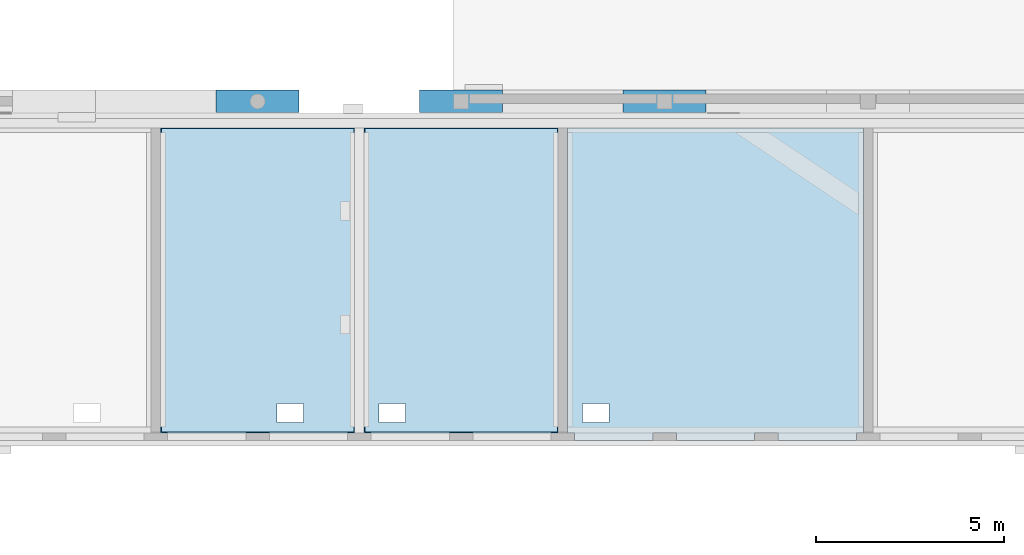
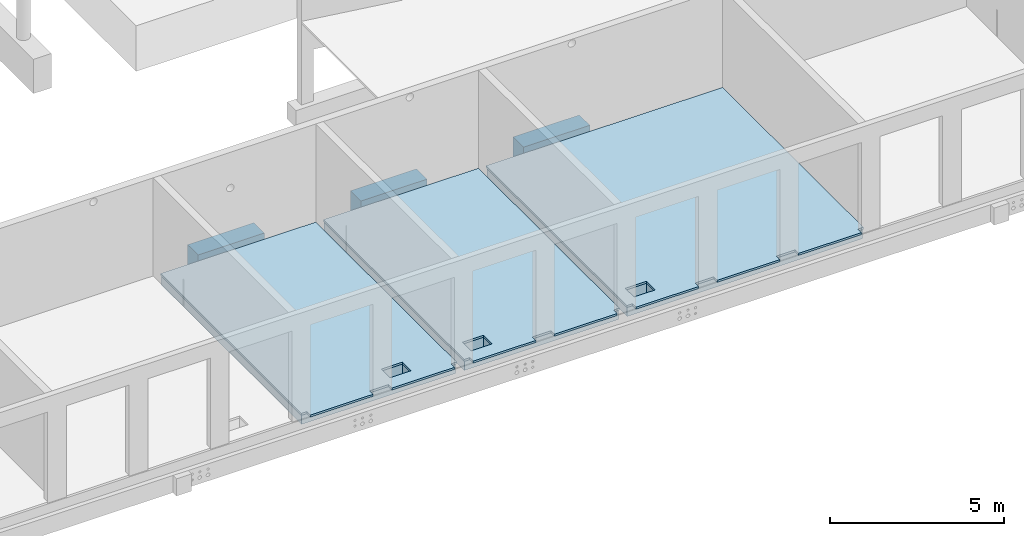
# One storey, part 27 of 60: 9 slabs, 51 openings.
"""IFC2X3 building model written with IfcOpenShell, lengths in millimetres."""

from ifc_helpers import new_model, entity, si_unit, converted_unit, derived_unit, direction, frame, frame_2d, origin, origin_2d_with_axis, place, context, subcontext, project, spatial, polyline, rectangle, outline, extrude, material, layer, layer_set, layer_usage, element, save


model = new_model("IFC2X3")

# Units and contexts
model_context = context("Model", 3, precision=0.01, world=origin(), true_north=direction((6.12303176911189e-17, 1.0)))
body_context = subcontext(model_context, "Body", "Model", "MODEL_VIEW")
ifc_project = project(units=[si_unit("LENGTHUNIT", "METRE", prefix="MILLI"), si_unit("AREAUNIT", "SQUARE_METRE"), si_unit("VOLUMEUNIT", "CUBIC_METRE"), converted_unit("PLANEANGLEUNIT", "DEGREE", entity("IfcRatioMeasure", 0.0174532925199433), si_unit("PLANEANGLEUNIT", "RADIAN"), dimensions=[0, 0, 0, 0, 0, 0, 0]), si_unit("MASSUNIT", "GRAM", prefix="KILO"), derived_unit("MASSDENSITYUNIT", [(si_unit("MASSUNIT", "GRAM", prefix="KILO"), 1), (si_unit("LENGTHUNIT", "METRE"), -3)]), si_unit("TIMEUNIT", "SECOND"), si_unit("FREQUENCYUNIT", "HERTZ"), si_unit("THERMODYNAMICTEMPERATUREUNIT", "DEGREE_CELSIUS"), derived_unit("THERMALTRANSMITTANCEUNIT", [(si_unit("MASSUNIT", "GRAM", prefix="KILO"), 1), (si_unit("THERMODYNAMICTEMPERATUREUNIT", "KELVIN"), -1), (si_unit("TIMEUNIT", "SECOND"), -3)]), derived_unit("VOLUMETRICFLOWRATEUNIT", [(si_unit("LENGTHUNIT", "METRE"), 3), (si_unit("TIMEUNIT", "SECOND"), -1)]), si_unit("ELECTRICCURRENTUNIT", "AMPERE"), si_unit("ELECTRICVOLTAGEUNIT", "VOLT"), si_unit("POWERUNIT", "WATT"), si_unit("FORCEUNIT", "NEWTON", prefix="KILO"), si_unit("ILLUMINANCEUNIT", "LUX"), si_unit("LUMINOUSFLUXUNIT", "LUMEN"), si_unit("LUMINOUSINTENSITYUNIT", "CANDELA"), derived_unit("USERDEFINED", [(si_unit("MASSUNIT", "GRAM", prefix="KILO"), -1), (si_unit("LENGTHUNIT", "METRE"), -2), (si_unit("TIMEUNIT", "SECOND"), 3), (si_unit("LUMINOUSFLUXUNIT", "LUMEN"), 1)]), derived_unit("LINEARVELOCITYUNIT", [(si_unit("LENGTHUNIT", "METRE"), 1), (si_unit("TIMEUNIT", "SECOND"), -1)]), si_unit("PRESSUREUNIT", "PASCAL"), derived_unit("USERDEFINED", [(si_unit("LENGTHUNIT", "METRE"), -2), (si_unit("MASSUNIT", "GRAM", prefix="KILO"), 1), (si_unit("TIMEUNIT", "SECOND"), -2)])], contexts=[model_context])

# Site, building, storey
site_placement = place(None, origin())
site = spatial("IfcSite", under=ifc_project, at=site_placement, Name="Default", CompositionType="ELEMENT")
building_placement = place(site_placement, origin())
building = spatial("IfcBuilding", under=site, at=building_placement, Name="niet gebruiken", CompositionType="ELEMENT")
storey_placement = place(building_placement, origin())
storey = spatial("IfcBuildingStorey", under=building, at=storey_placement, Name="00 begane grond", CompositionType="ELEMENT", Elevation=0.0)

# Slab, openings
ifc_material_1 = material(Name="NLRS_f2_beton ihwg")
ifc_layer_1 = layer(ifc_material_1, 70.0)
ifc_layer_set_1 = layer_set([ifc_layer_1], Name="Floor:NLRS_23.21_FL_druklaag d=70_gen")
ifc_layer_usage_1 = layer_usage(ifc_layer_set_1, "AXIS3", "POSITIVE", 0.0)
slab_1_placement = place(storey_placement, frame((2800.0, 200.0, -160.0)))
slab_1 = element("IfcSlab", 1, at=slab_1_placement, inside=storey, material=ifc_layer_usage_1, Name="Floor:NLRS_23.21_FL_druklaag d=70_gen:11", ObjectType="Floor:NLRS_23.21_FL_druklaag d=70_gen", PredefinedType="FLOOR", context=body_context, shape_type="SweptSolid", body=[
    extrude(outline(polyline([(-9672.49999999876, -3948.0), (-9487.49999999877, -3948.0), (-9487.49999999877, 4148.0), (-14637.4999999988, 4148.0), (-14637.4999999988, -3948.0), (-14452.4999999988, -3948.0), (-14452.4999999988, -4148.0), (-12372.4999999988, -4148.0), (-12372.4999999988, -3948.0), (-11752.4999999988, -3948.0), (-11752.4999999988, -4148.0), (-9672.49999999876, -4148.0), (-9672.49999999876, -3948.0)])), frame((49937.5, 4148.0, 70.0), z_axis=(0.0, 0.0, -1.0), x_axis=(-1.0, 0.0, 0.0)), (0.0, 0.0, 1.0), 70.0),
])
placement_1 = place(storey_placement, frame((2800.0, 200.0, -160.0)))
placement_2 = place(placement_1, origin())
element("IfcOpeningElement", 2, at=placement_2, cuts=slab_1, ObjectType="Opening", context=body_context, shape_type="SweptSolid", body=[
    extrude(rectangle(XDim=699.999999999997, YDim=500.000000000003, at=origin_2d_with_axis()), frame((89870.0, 725.0, -380.0), z_axis=(0.0, 0.0, 1.0), x_axis=(-1.0, 0.0, 0.0)), (0.0, 0.0, 1.0), 450.0),
])
placement_3 = place(placement_1, origin())
element("IfcOpeningElement", 3, at=placement_3, cuts=slab_1, ObjectType="Opening", context=body_context, shape_type="SweptSolid", body=[
    extrude(rectangle(XDim=699.999999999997, YDim=500.000000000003, at=origin_2d_with_axis()), frame((92570.0, 725.0, -380.0), z_axis=(0.0, 0.0, 1.0), x_axis=(-1.0, 0.0, 0.0)), (0.0, 0.0, 1.0), 450.0),
])
placement_4 = place(placement_1, origin())
element("IfcOpeningElement", 4, at=placement_4, cuts=slab_1, ObjectType="Opening", context=body_context, shape_type="SweptSolid", body=[
    extrude(rectangle(XDim=699.999999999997, YDim=500.000000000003, at=origin_2d_with_axis()), frame((84470.0, 725.0, -380.0), z_axis=(0.0, 0.0, 1.0), x_axis=(-1.0, 0.0, 0.0)), (0.0, 0.0, 1.0), 450.0),
])
placement_5 = place(placement_1, origin())
element("IfcOpeningElement", 5, at=placement_5, cuts=slab_1, ObjectType="Opening", context=body_context, shape_type="SweptSolid", body=[
    extrude(rectangle(XDim=700.000000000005, YDim=500.000000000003, at=origin_2d_with_axis()), frame((70970.0, 725.0, -380.0), z_axis=(0.0, 0.0, 1.0), x_axis=(-1.0, 0.0, 0.0)), (0.0, 0.0, 1.0), 450.0),
])
placement_6 = place(placement_1, origin())
element("IfcOpeningElement", 6, at=placement_6, cuts=slab_1, ObjectType="Opening", context=body_context, shape_type="SweptSolid", body=[
    extrude(rectangle(XDim=700.000000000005, YDim=500.000000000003, at=origin_2d_with_axis()), frame((65570.0, 725.0, -380.0), z_axis=(0.0, 0.0, 1.0), x_axis=(-1.0, 0.0, 0.0)), (0.0, 0.0, 1.0), 450.0),
])
placement_7 = place(placement_1, origin())
element("IfcOpeningElement", 7, at=placement_7, cuts=slab_1, ObjectType="Opening", context=body_context, shape_type="SweptSolid", body=[
    extrude(rectangle(XDim=700.000000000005, YDim=500.000000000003, at=origin_2d_with_axis()), frame((62870.0, 725.0, -380.0), z_axis=(0.0, 0.0, 1.0), x_axis=(-1.0, 0.0, 0.0)), (0.0, 0.0, 1.0), 450.0),
])
placement_8 = place(placement_1, origin())
element("IfcOpeningElement", 8, at=placement_8, cuts=slab_1, ObjectType="Opening", context=body_context, shape_type="SweptSolid", body=[
    extrude(rectangle(XDim=700.000000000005, YDim=500.000000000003, at=origin_2d_with_axis()), frame((57470.0, 725.0, -380.0), z_axis=(0.0, 0.0, 1.0), x_axis=(-1.0, 0.0, 0.0)), (0.0, 0.0, 1.0), 450.0),
])
placement_9 = place(placement_1, origin())
element("IfcOpeningElement", 9, at=placement_9, cuts=slab_1, ObjectType="Opening", context=body_context, shape_type="SweptSolid", body=[
    extrude(rectangle(XDim=700.000000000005, YDim=500.000000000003, at=origin_2d_with_axis()), frame((43970.0, 725.0, -380.0), z_axis=(0.0, 0.0, 1.0), x_axis=(-1.0, 0.0, 0.0)), (0.0, 0.0, 1.0), 450.0),
])
placement_10 = place(placement_1, origin())
element("IfcOpeningElement", 10, at=placement_10, cuts=slab_1, ObjectType="Opening", context=body_context, shape_type="SweptSolid", body=[
    extrude(rectangle(XDim=700.000000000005, YDim=500.000000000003, at=origin_2d_with_axis()), frame((38570.0, 725.0, -380.0), z_axis=(0.0, 0.0, 1.0), x_axis=(-1.0, 0.0, 0.0)), (0.0, 0.0, 1.0), 450.0),
])
placement_11 = place(placement_1, origin())
element("IfcOpeningElement", 11, at=placement_11, cuts=slab_1, ObjectType="Opening", context=body_context, shape_type="SweptSolid", body=[
    extrude(rectangle(XDim=700.000000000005, YDim=500.000000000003, at=origin_2d_with_axis()), frame((35870.0, 725.0, -380.0), z_axis=(0.0, 0.0, 1.0), x_axis=(-1.0, 0.0, 0.0)), (0.0, 0.0, 1.0), 450.0),
])
placement_12 = place(placement_1, origin())
element("IfcOpeningElement", 12, at=placement_12, cuts=slab_1, ObjectType="Opening", context=body_context, shape_type="SweptSolid", body=[
    extrude(rectangle(XDim=700.000000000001, YDim=500.000000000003, at=origin_2d_with_axis()), frame((30470.0, 725.0, -380.0), z_axis=(0.0, 0.0, 1.0), x_axis=(-1.0, 0.0, 0.0)), (0.0, 0.0, 1.0), 450.0),
])
placement_13 = place(placement_1, origin())
element("IfcOpeningElement", 13, at=placement_13, cuts=slab_1, ObjectType="Opening", context=body_context, shape_type="SweptSolid", body=[
    extrude(rectangle(XDim=700.000000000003, YDim=500.000000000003, at=origin_2d_with_axis()), frame((16970.0, 725.0, -380.0), z_axis=(0.0, 0.0, 1.0), x_axis=(-1.0, 0.0, 0.0)), (0.0, 0.0, 1.0), 450.0),
])
placement_14 = place(placement_1, origin())
element("IfcOpeningElement", 14, at=placement_14, cuts=slab_1, ObjectType="Opening", context=body_context, shape_type="SweptSolid", body=[
    extrude(rectangle(XDim=700.000000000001, YDim=500.000000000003, at=origin_2d_with_axis()), frame((11570.0, 725.0, -380.0), z_axis=(0.0, 0.0, 1.0), x_axis=(-1.0, 0.0, 0.0)), (0.0, 0.0, 1.0), 450.0),
])
placement_15 = place(placement_1, origin())
element("IfcOpeningElement", 15, at=placement_15, cuts=slab_1, ObjectType="Opening", context=body_context, shape_type="SweptSolid", body=[
    extrude(rectangle(XDim=700.000000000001, YDim=500.000000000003, at=origin_2d_with_axis()), frame((8870.0, 725.0, -380.0), z_axis=(0.0, 0.0, 1.0), x_axis=(-1.0, 0.0, 0.0)), (0.0, 0.0, 1.0), 450.0),
])
placement_16 = place(placement_1, origin())
element("IfcOpeningElement", 16, at=placement_16, cuts=slab_1, ObjectType="Opening", context=body_context, shape_type="SweptSolid", body=[
    extrude(rectangle(XDim=700.000000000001, YDim=500.000000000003, at=origin_2d_with_axis()), frame((3470.0, 725.0, -380.0), z_axis=(0.0, 0.0, 1.0), x_axis=(-1.0, 0.0, 0.0)), (0.0, 0.0, 1.0), 450.0),
])
placement_17 = place(placement_1, origin())
element("IfcOpeningElement", 17, at=placement_17, cuts=slab_1, ObjectType="Opening", context=body_context, shape_type="SweptSolid", body=[
    extrude(rectangle(XDim=699.999999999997, YDim=500.000000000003, at=origin_2d_with_axis()), frame((99205.001708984, 4120.00003051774, -380.0), z_axis=(0.0, 0.0, 1.0), x_axis=(-1.0, 0.0, 0.0)), (0.0, 0.0, 1.0), 450.0),
])

slab_2_placement = place(storey_placement, frame((2800.0, 200.0, -160.0)))
slab_2 = element("IfcSlab", 18, at=slab_2_placement, inside=storey, material=ifc_layer_usage_1, Name="Floor:NLRS_23.21_FL_druklaag d=70_gen:12", ObjectType="Floor:NLRS_23.21_FL_druklaag d=70_gen", PredefinedType="FLOOR", context=body_context, shape_type="SweptSolid", body=[
    extrude(outline(polyline([(-15072.4999999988, -3948.0), (-14887.4999999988, -3948.0), (-14887.4999999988, 4148.0), (-20037.4999999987, 4148.0), (-20037.4999999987, -3948.0), (-19852.4999999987, -3948.0), (-19852.4999999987, -4148.0), (-17772.4999999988, -4148.0), (-17772.4999999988, -3948.0), (-17152.4999999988, -3948.0), (-17152.4999999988, -4148.0), (-15072.4999999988, -4148.0), (-15072.4999999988, -3948.0)])), frame((49937.5, 4148.0, 70.0), z_axis=(0.0, 0.0, -1.0), x_axis=(-1.0, 0.0, 0.0)), (0.0, 0.0, 1.0), 70.0),
])
element("IfcOpeningElement", 19, at=placement_2, cuts=slab_2, ObjectType="Opening", context=body_context, shape_type="SweptSolid", body=[
    extrude(rectangle(XDim=699.999999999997, YDim=500.000000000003, at=origin_2d_with_axis()), frame((89870.0, 725.0, -380.0), z_axis=(0.0, 0.0, 1.0), x_axis=(-1.0, 0.0, 0.0)), (0.0, 0.0, 1.0), 450.0),
])
element("IfcOpeningElement", 20, at=placement_3, cuts=slab_2, ObjectType="Opening", context=body_context, shape_type="SweptSolid", body=[
    extrude(rectangle(XDim=699.999999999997, YDim=500.000000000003, at=origin_2d_with_axis()), frame((92570.0, 725.0, -380.0), z_axis=(0.0, 0.0, 1.0), x_axis=(-1.0, 0.0, 0.0)), (0.0, 0.0, 1.0), 450.0),
])
element("IfcOpeningElement", 21, at=placement_4, cuts=slab_2, ObjectType="Opening", context=body_context, shape_type="SweptSolid", body=[
    extrude(rectangle(XDim=699.999999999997, YDim=500.000000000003, at=origin_2d_with_axis()), frame((84470.0, 725.0, -380.0), z_axis=(0.0, 0.0, 1.0), x_axis=(-1.0, 0.0, 0.0)), (0.0, 0.0, 1.0), 450.0),
])
element("IfcOpeningElement", 22, at=placement_5, cuts=slab_2, ObjectType="Opening", context=body_context, shape_type="SweptSolid", body=[
    extrude(rectangle(XDim=700.000000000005, YDim=500.000000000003, at=origin_2d_with_axis()), frame((70970.0, 725.0, -380.0), z_axis=(0.0, 0.0, 1.0), x_axis=(-1.0, 0.0, 0.0)), (0.0, 0.0, 1.0), 450.0),
])
element("IfcOpeningElement", 23, at=placement_6, cuts=slab_2, ObjectType="Opening", context=body_context, shape_type="SweptSolid", body=[
    extrude(rectangle(XDim=700.000000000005, YDim=500.000000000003, at=origin_2d_with_axis()), frame((65570.0, 725.0, -380.0), z_axis=(0.0, 0.0, 1.0), x_axis=(-1.0, 0.0, 0.0)), (0.0, 0.0, 1.0), 450.0),
])
element("IfcOpeningElement", 24, at=placement_7, cuts=slab_2, ObjectType="Opening", context=body_context, shape_type="SweptSolid", body=[
    extrude(rectangle(XDim=700.000000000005, YDim=500.000000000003, at=origin_2d_with_axis()), frame((62870.0, 725.0, -380.0), z_axis=(0.0, 0.0, 1.0), x_axis=(-1.0, 0.0, 0.0)), (0.0, 0.0, 1.0), 450.0),
])
element("IfcOpeningElement", 25, at=placement_8, cuts=slab_2, ObjectType="Opening", context=body_context, shape_type="SweptSolid", body=[
    extrude(rectangle(XDim=700.000000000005, YDim=500.000000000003, at=origin_2d_with_axis()), frame((57470.0, 725.0, -380.0), z_axis=(0.0, 0.0, 1.0), x_axis=(-1.0, 0.0, 0.0)), (0.0, 0.0, 1.0), 450.0),
])
element("IfcOpeningElement", 26, at=placement_9, cuts=slab_2, ObjectType="Opening", context=body_context, shape_type="SweptSolid", body=[
    extrude(rectangle(XDim=700.000000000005, YDim=500.000000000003, at=origin_2d_with_axis()), frame((43970.0, 725.0, -380.0), z_axis=(0.0, 0.0, 1.0), x_axis=(-1.0, 0.0, 0.0)), (0.0, 0.0, 1.0), 450.0),
])
element("IfcOpeningElement", 27, at=placement_10, cuts=slab_2, ObjectType="Opening", context=body_context, shape_type="SweptSolid", body=[
    extrude(rectangle(XDim=700.000000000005, YDim=500.000000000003, at=origin_2d_with_axis()), frame((38570.0, 725.0, -380.0), z_axis=(0.0, 0.0, 1.0), x_axis=(-1.0, 0.0, 0.0)), (0.0, 0.0, 1.0), 450.0),
])
element("IfcOpeningElement", 28, at=placement_11, cuts=slab_2, ObjectType="Opening", context=body_context, shape_type="SweptSolid", body=[
    extrude(rectangle(XDim=700.000000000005, YDim=500.000000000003, at=origin_2d_with_axis()), frame((35870.0, 725.0, -380.0), z_axis=(0.0, 0.0, 1.0), x_axis=(-1.0, 0.0, 0.0)), (0.0, 0.0, 1.0), 450.0),
])
element("IfcOpeningElement", 29, at=placement_12, cuts=slab_2, ObjectType="Opening", context=body_context, shape_type="SweptSolid", body=[
    extrude(rectangle(XDim=700.000000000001, YDim=500.000000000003, at=origin_2d_with_axis()), frame((30470.0, 725.0, -380.0), z_axis=(0.0, 0.0, 1.0), x_axis=(-1.0, 0.0, 0.0)), (0.0, 0.0, 1.0), 450.0),
])
element("IfcOpeningElement", 30, at=placement_13, cuts=slab_2, ObjectType="Opening", context=body_context, shape_type="SweptSolid", body=[
    extrude(rectangle(XDim=700.000000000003, YDim=500.000000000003, at=origin_2d_with_axis()), frame((16970.0, 725.0, -380.0), z_axis=(0.0, 0.0, 1.0), x_axis=(-1.0, 0.0, 0.0)), (0.0, 0.0, 1.0), 450.0),
])
element("IfcOpeningElement", 31, at=placement_14, cuts=slab_2, ObjectType="Opening", context=body_context, shape_type="SweptSolid", body=[
    extrude(rectangle(XDim=700.000000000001, YDim=500.000000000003, at=origin_2d_with_axis()), frame((11570.0, 725.0, -380.0), z_axis=(0.0, 0.0, 1.0), x_axis=(-1.0, 0.0, 0.0)), (0.0, 0.0, 1.0), 450.0),
])
element("IfcOpeningElement", 32, at=placement_15, cuts=slab_2, ObjectType="Opening", context=body_context, shape_type="SweptSolid", body=[
    extrude(rectangle(XDim=700.000000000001, YDim=500.000000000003, at=origin_2d_with_axis()), frame((8870.0, 725.0, -380.0), z_axis=(0.0, 0.0, 1.0), x_axis=(-1.0, 0.0, 0.0)), (0.0, 0.0, 1.0), 450.0),
])
element("IfcOpeningElement", 33, at=placement_16, cuts=slab_2, ObjectType="Opening", context=body_context, shape_type="SweptSolid", body=[
    extrude(rectangle(XDim=700.000000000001, YDim=500.000000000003, at=origin_2d_with_axis()), frame((3470.0, 725.0, -380.0), z_axis=(0.0, 0.0, 1.0), x_axis=(-1.0, 0.0, 0.0)), (0.0, 0.0, 1.0), 450.0),
])
element("IfcOpeningElement", 34, at=placement_17, cuts=slab_2, ObjectType="Opening", context=body_context, shape_type="SweptSolid", body=[
    extrude(rectangle(XDim=699.999999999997, YDim=500.000000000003, at=origin_2d_with_axis()), frame((99205.001708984, 4120.00003051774, -380.0), z_axis=(0.0, 0.0, 1.0), x_axis=(-1.0, 0.0, 0.0)), (0.0, 0.0, 1.0), 450.0),
])

slab_3_placement = place(storey_placement, frame((2800.0, 200.0, -160.0)))
slab_3 = element("IfcSlab", 35, at=slab_3_placement, inside=storey, material=ifc_layer_usage_1, Name="Floor:NLRS_23.21_FL_druklaag d=70_gen:13", ObjectType="Floor:NLRS_23.21_FL_druklaag d=70_gen", PredefinedType="FLOOR", context=body_context, shape_type="SweptSolid", body=[
    extrude(outline(polyline([(-20472.4999999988, -3948.0), (-20287.4999999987, -3948.0), (-20287.4999999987, 4148.0), (-28137.4999999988, 4148.0), (-28137.4999999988, -3948.0), (-27952.4999999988, -3948.0), (-27952.4999999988, -4148.0), (-25872.4999999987, -4148.0), (-25872.4999999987, -3948.0), (-25252.4999999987, -3948.0), (-25252.4999999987, -4148.0), (-23172.4999999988, -4148.0), (-23172.4999999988, -3948.0), (-22552.4999999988, -3948.0), (-22552.4999999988, -4148.0), (-20472.4999999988, -4148.0), (-20472.4999999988, -3948.0)])), frame((49937.5, 4148.0, 70.0), z_axis=(0.0, 0.0, -1.0), x_axis=(-1.0, 0.0, 0.0)), (0.0, 0.0, 1.0), 70.0),
])
element("IfcOpeningElement", 36, at=placement_2, cuts=slab_3, ObjectType="Opening", context=body_context, shape_type="SweptSolid", body=[
    extrude(rectangle(XDim=699.999999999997, YDim=500.000000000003, at=origin_2d_with_axis()), frame((89870.0, 725.0, -380.0), z_axis=(0.0, 0.0, 1.0), x_axis=(-1.0, 0.0, 0.0)), (0.0, 0.0, 1.0), 450.0),
])
element("IfcOpeningElement", 37, at=placement_3, cuts=slab_3, ObjectType="Opening", context=body_context, shape_type="SweptSolid", body=[
    extrude(rectangle(XDim=699.999999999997, YDim=500.000000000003, at=origin_2d_with_axis()), frame((92570.0, 725.0, -380.0), z_axis=(0.0, 0.0, 1.0), x_axis=(-1.0, 0.0, 0.0)), (0.0, 0.0, 1.0), 450.0),
])
element("IfcOpeningElement", 38, at=placement_4, cuts=slab_3, ObjectType="Opening", context=body_context, shape_type="SweptSolid", body=[
    extrude(rectangle(XDim=699.999999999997, YDim=500.000000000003, at=origin_2d_with_axis()), frame((84470.0, 725.0, -380.0), z_axis=(0.0, 0.0, 1.0), x_axis=(-1.0, 0.0, 0.0)), (0.0, 0.0, 1.0), 450.0),
])
element("IfcOpeningElement", 39, at=placement_5, cuts=slab_3, ObjectType="Opening", context=body_context, shape_type="SweptSolid", body=[
    extrude(rectangle(XDim=700.000000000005, YDim=500.000000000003, at=origin_2d_with_axis()), frame((70970.0, 725.0, -380.0), z_axis=(0.0, 0.0, 1.0), x_axis=(-1.0, 0.0, 0.0)), (0.0, 0.0, 1.0), 450.0),
])
element("IfcOpeningElement", 40, at=placement_6, cuts=slab_3, ObjectType="Opening", context=body_context, shape_type="SweptSolid", body=[
    extrude(rectangle(XDim=700.000000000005, YDim=500.000000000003, at=origin_2d_with_axis()), frame((65570.0, 725.0, -380.0), z_axis=(0.0, 0.0, 1.0), x_axis=(-1.0, 0.0, 0.0)), (0.0, 0.0, 1.0), 450.0),
])
element("IfcOpeningElement", 41, at=placement_7, cuts=slab_3, ObjectType="Opening", context=body_context, shape_type="SweptSolid", body=[
    extrude(rectangle(XDim=700.000000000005, YDim=500.000000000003, at=origin_2d_with_axis()), frame((62870.0, 725.0, -380.0), z_axis=(0.0, 0.0, 1.0), x_axis=(-1.0, 0.0, 0.0)), (0.0, 0.0, 1.0), 450.0),
])
element("IfcOpeningElement", 42, at=placement_8, cuts=slab_3, ObjectType="Opening", context=body_context, shape_type="SweptSolid", body=[
    extrude(rectangle(XDim=700.000000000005, YDim=500.000000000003, at=origin_2d_with_axis()), frame((57470.0, 725.0, -380.0), z_axis=(0.0, 0.0, 1.0), x_axis=(-1.0, 0.0, 0.0)), (0.0, 0.0, 1.0), 450.0),
])
element("IfcOpeningElement", 43, at=placement_9, cuts=slab_3, ObjectType="Opening", context=body_context, shape_type="SweptSolid", body=[
    extrude(rectangle(XDim=700.000000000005, YDim=500.000000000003, at=origin_2d_with_axis()), frame((43970.0, 725.0, -380.0), z_axis=(0.0, 0.0, 1.0), x_axis=(-1.0, 0.0, 0.0)), (0.0, 0.0, 1.0), 450.0),
])
element("IfcOpeningElement", 44, at=placement_10, cuts=slab_3, ObjectType="Opening", context=body_context, shape_type="SweptSolid", body=[
    extrude(rectangle(XDim=700.000000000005, YDim=500.000000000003, at=origin_2d_with_axis()), frame((38570.0, 725.0, -380.0), z_axis=(0.0, 0.0, 1.0), x_axis=(-1.0, 0.0, 0.0)), (0.0, 0.0, 1.0), 450.0),
])
element("IfcOpeningElement", 45, at=placement_11, cuts=slab_3, ObjectType="Opening", context=body_context, shape_type="SweptSolid", body=[
    extrude(rectangle(XDim=700.000000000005, YDim=500.000000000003, at=origin_2d_with_axis()), frame((35870.0, 725.0, -380.0), z_axis=(0.0, 0.0, 1.0), x_axis=(-1.0, 0.0, 0.0)), (0.0, 0.0, 1.0), 450.0),
])
element("IfcOpeningElement", 46, at=placement_12, cuts=slab_3, ObjectType="Opening", context=body_context, shape_type="SweptSolid", body=[
    extrude(rectangle(XDim=700.000000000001, YDim=500.000000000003, at=origin_2d_with_axis()), frame((30470.0, 725.0, -380.0), z_axis=(0.0, 0.0, 1.0), x_axis=(-1.0, 0.0, 0.0)), (0.0, 0.0, 1.0), 450.0),
])
element("IfcOpeningElement", 47, at=placement_13, cuts=slab_3, ObjectType="Opening", context=body_context, shape_type="SweptSolid", body=[
    extrude(rectangle(XDim=700.000000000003, YDim=500.000000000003, at=origin_2d_with_axis()), frame((16970.0, 725.0, -380.0), z_axis=(0.0, 0.0, 1.0), x_axis=(-1.0, 0.0, 0.0)), (0.0, 0.0, 1.0), 450.0),
])
element("IfcOpeningElement", 48, at=placement_14, cuts=slab_3, ObjectType="Opening", context=body_context, shape_type="SweptSolid", body=[
    extrude(rectangle(XDim=700.000000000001, YDim=500.000000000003, at=origin_2d_with_axis()), frame((11570.0, 725.0, -380.0), z_axis=(0.0, 0.0, 1.0), x_axis=(-1.0, 0.0, 0.0)), (0.0, 0.0, 1.0), 450.0),
])
element("IfcOpeningElement", 49, at=placement_15, cuts=slab_3, ObjectType="Opening", context=body_context, shape_type="SweptSolid", body=[
    extrude(rectangle(XDim=700.000000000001, YDim=500.000000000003, at=origin_2d_with_axis()), frame((8870.0, 725.0, -380.0), z_axis=(0.0, 0.0, 1.0), x_axis=(-1.0, 0.0, 0.0)), (0.0, 0.0, 1.0), 450.0),
])
element("IfcOpeningElement", 50, at=placement_16, cuts=slab_3, ObjectType="Opening", context=body_context, shape_type="SweptSolid", body=[
    extrude(rectangle(XDim=700.000000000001, YDim=500.000000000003, at=origin_2d_with_axis()), frame((3470.0, 725.0, -380.0), z_axis=(0.0, 0.0, 1.0), x_axis=(-1.0, 0.0, 0.0)), (0.0, 0.0, 1.0), 450.0),
])
element("IfcOpeningElement", 51, at=placement_17, cuts=slab_3, ObjectType="Opening", context=body_context, shape_type="SweptSolid", body=[
    extrude(rectangle(XDim=699.999999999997, YDim=500.000000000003, at=origin_2d_with_axis()), frame((99205.001708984, 4120.00003051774, -380.0), z_axis=(0.0, 0.0, 1.0), x_axis=(-1.0, 0.0, 0.0)), (0.0, 0.0, 1.0), 450.0),
])

# Slab, opening
ifc_material_2 = material(Name="NLRS_f2_beton prefab")
ifc_layer_2 = layer(ifc_material_2, 200.0)
ifc_material_3 = material(Name="NLRS_n7_isolatie EPS")
ifc_layer_3 = layer(ifc_material_3, 132.0)
ifc_layer_set_2 = layer_set([ifc_layer_2, ifc_layer_3], Name="Floor:NLRS_23.21_FL_geisoleerde kanaalplaat d=200 rc 3.5 iso132_gen")
ifc_layer_usage_2 = layer_usage(ifc_layer_set_2, "AXIS3", "POSITIVE", 0.0)
slab_4_placement = place(storey_placement, frame((62245.0, 420.0, -492.0)))
slab_4 = element("IfcSlab", 52, at=slab_4_placement, inside=storey, material=ifc_layer_usage_2, Name="Floor:NLRS_23.21_FL_geisoleerde kanaalplaat d=200 rc 3.5 iso132_gen", ObjectType="Floor:NLRS_23.21_FL_geisoleerde kanaalplaat d=200 rc 3.5 iso132_gen", PredefinedType="FLOOR", context=body_context, shape_type="SweptSolid", body=[
    extrude(rectangle(XDim=8055.99999999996, YDim=5109.99999999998, at=frame_2d((0.0, 0.0), x_axis=(0.0, -1.0))), frame((2555.0, 4028.0, 332.0), z_axis=(0.0, 0.0, -1.0), x_axis=(-1.0, 0.0, 0.0)), (0.0, 0.0, 1.0), 332.0),
])
opening_49_placement = place(slab_4_placement, origin())
element("IfcOpeningElement", 53, at=opening_49_placement, cuts=slab_4, ObjectType="Opening", context=body_context, shape_type="SweptSolid", body=[
    extrude(rectangle(XDim=700.000000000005, YDim=500.000000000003, at=origin_2d_with_axis()), frame((3425.0, 505.0, -48.0), z_axis=(0.0, 0.0, 1.0), x_axis=(-1.0, 0.0, 0.0)), (0.0, 0.0, 1.0), 450.0),
])

ifc_layer_usage_3 = layer_usage(ifc_layer_set_2, "AXIS3", "POSITIVE", 0.0)
slab_5_placement = place(storey_placement, frame((67645.0, 420.0, -492.0)))
slab_5 = element("IfcSlab", 54, at=slab_5_placement, inside=storey, material=ifc_layer_usage_3, Name="Floor:NLRS_23.21_FL_geisoleerde kanaalplaat d=200 rc 3.5 iso132_gen", ObjectType="Floor:NLRS_23.21_FL_geisoleerde kanaalplaat d=200 rc 3.5 iso132_gen", PredefinedType="FLOOR", context=body_context, shape_type="SweptSolid", body=[
    extrude(rectangle(XDim=8055.99999999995, YDim=5109.99999999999, at=frame_2d((0.0, 0.0), x_axis=(0.0, -1.0))), frame((2555.0, 4028.0, 332.0), z_axis=(0.0, 0.0, -1.0), x_axis=(-1.0, 0.0, 0.0)), (0.0, 0.0, 1.0), 332.0),
])
opening_50_placement = place(slab_5_placement, origin())
element("IfcOpeningElement", 55, at=opening_50_placement, cuts=slab_5, ObjectType="Opening", context=body_context, shape_type="SweptSolid", body=[
    extrude(rectangle(XDim=700.000000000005, YDim=500.000000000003, at=origin_2d_with_axis()), frame((725.0, 505.0, -48.0), z_axis=(0.0, 0.0, 1.0), x_axis=(-1.0, 0.0, 0.0)), (0.0, 0.0, 1.0), 450.0),
])

ifc_layer_usage_4 = layer_usage(ifc_layer_set_2, "AXIS3", "POSITIVE", 0.0)
slab_6_placement = place(storey_placement, frame((73045.0, 420.0, -492.0)))
slab_6 = element("IfcSlab", 56, at=slab_6_placement, inside=storey, material=ifc_layer_usage_4, Name="Floor:NLRS_23.21_FL_geisoleerde kanaalplaat d=200 rc 3.5 iso132_gen", ObjectType="Floor:NLRS_23.21_FL_geisoleerde kanaalplaat d=200 rc 3.5 iso132_gen", PredefinedType="FLOOR", context=body_context, shape_type="SweptSolid", body=[
    extrude(rectangle(XDim=8055.99999999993, YDim=7810.0, at=frame_2d((0.0, 0.0), x_axis=(0.0, -1.0))), frame((3905.0, 4028.0, 332.0), z_axis=(0.0, 0.0, -1.0), x_axis=(-1.0, 0.0, 0.0)), (0.0, 0.0, 1.0), 332.0),
])
opening_51_placement = place(slab_6_placement, origin())
element("IfcOpeningElement", 57, at=opening_51_placement, cuts=slab_6, ObjectType="Opening", context=body_context, shape_type="SweptSolid", body=[
    extrude(rectangle(XDim=700.000000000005, YDim=500.000000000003, at=origin_2d_with_axis()), frame((725.0, 505.0, -48.0), z_axis=(0.0, 0.0, 1.0), x_axis=(-1.0, 0.0, 0.0)), (0.0, 0.0, 1.0), 450.0),
])

# Slabs
slab_7_placement = place(storey_placement, origin())
element("IfcSlab", 58, at=slab_7_placement, inside=storey, material=ifc_material_1, Name="NLRS_16.13_SFO_LB_fundatiepoer_gen:600x2200x1200", ObjectType="NLRS_16.13_SFO_LB_fundatiepoer_gen:600x2200x1200", PredefinedType="BASESLAB", context=body_context, shape_type="SweptSolid", body=[
    extrude(rectangle(XDim=2200.0, YDim=600.0, at=origin_2d_with_axis()), frame((64800.0, 9196.0, -1400.0), z_axis=(0.0, 0.0, 1.0), x_axis=(-1.0, 0.0, 0.0)), (0.0, 0.0, 1.0), 1200.0),
])
slab_8_placement = place(storey_placement, origin())
element("IfcSlab", 59, at=slab_8_placement, inside=storey, material=ifc_material_1, Name="NLRS_16.13_SFO_LB_fundatiepoer_gen:600x2200x1200", ObjectType="NLRS_16.13_SFO_LB_fundatiepoer_gen:600x2200x1200", PredefinedType="BASESLAB", context=body_context, shape_type="SweptSolid", body=[
    extrude(rectangle(XDim=2200.0, YDim=600.0, at=frame_2d((20.000000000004, 60.0000000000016), x_axis=(1.0, 0.0))), frame((70220.0, 9256.0, -1400.0), z_axis=(0.0, 0.0, 1.0), x_axis=(-1.0, 0.0, 0.0)), (0.0, 0.0, 1.0), 1200.0),
])
slab_9_placement = place(storey_placement, origin())
element("IfcSlab", 60, at=slab_9_placement, inside=storey, material=ifc_material_1, Name="NLRS_16.13_SFO_LB_fundatiepoer_gen:600x2200x1200", ObjectType="NLRS_16.13_SFO_LB_fundatiepoer_gen:600x2200x1200", PredefinedType="BASESLAB", context=body_context, shape_type="SweptSolid", body=[
    extrude(rectangle(XDim=2200.0, YDim=600.0, at=origin_2d_with_axis()), frame((75600.0, 9196.0, -1400.0), z_axis=(0.0, 0.0, 1.0), x_axis=(-1.0, 0.0, 0.0)), (0.0, 0.0, 1.0), 1200.0),
])

save(model, "model.ifc")
